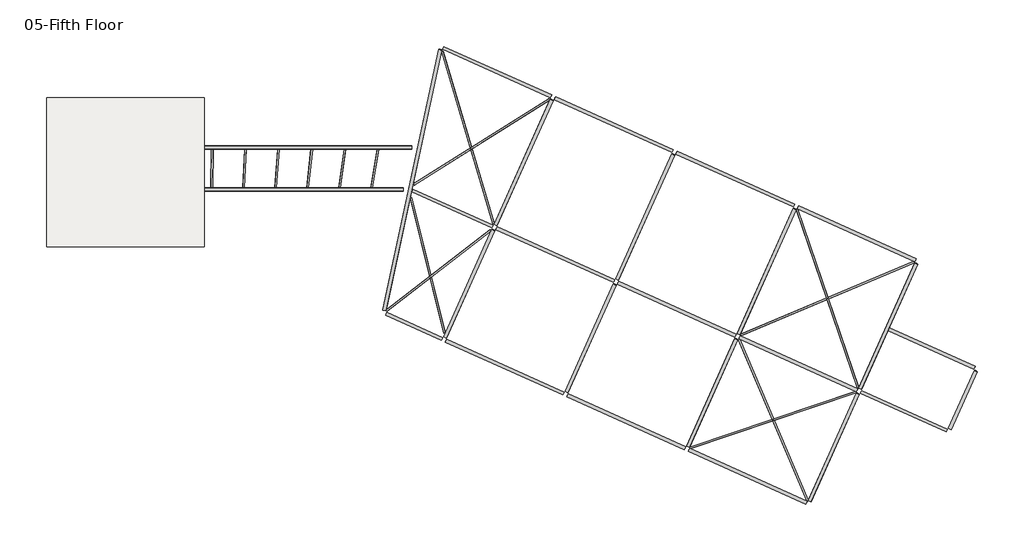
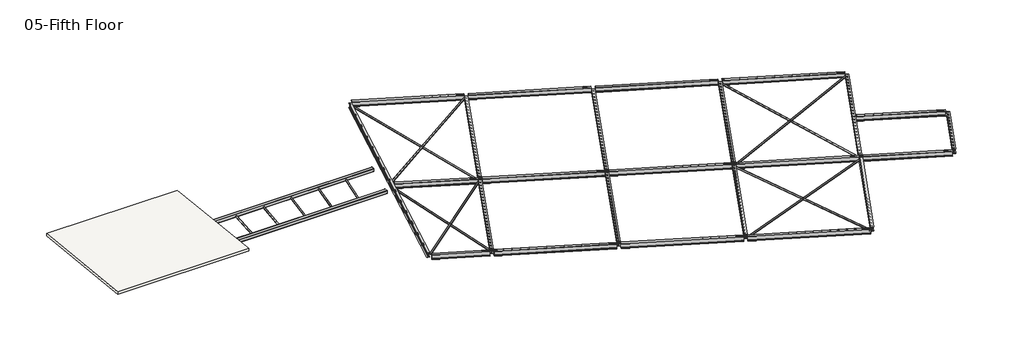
# One storey: 30 beams, 10 members, 1 slab.
"""IFC4 building model written with IfcOpenShell, lengths in millimetres."""

from ifc_helpers import new_model, si_unit, frame, origin, place, context, project, spatial, polyline, outline, extrude, transform, mapped, element, save
from components import hss_square_hss8x8x3_8_bad9dd2b, hss_square_hss8x8x3_8_38b9e08e, hss_round_structural_tubing_hss3_500x0_203_bc24e7bf, hss_round_structural_tubing_hss3_500x0_203_697ad0ac, hss_round_structural_tubing_hss3_500x0_203_f73b5b16, hss_round_structural_tubing_hss3_500x0_203_38bf33a0, w_shapes_w12x26_8135fd55, w_shapes_w12x26_22116e2b, w_shapes_w12x26_ad648731, w_shapes_w12x26_c2f357ce, w_shapes_w12x26_e6bebfd3, w_shapes_w12x26_969bac88, w_shapes_w12x26_bd244048, w_shapes_w12x26_875e1df2, w_shapes_w12x26_e9ed42f0, w_shapes_w12x26_24b1e7e8, w_shapes_w12x26_b3838ff3, w_shapes_w12x26_b11e058f, hss_round_structural_tubing_hss3_500x0_203_97989235, hss_round_structural_tubing_hss3_500x0_203_666bb957, hss_round_structural_tubing_hss3_500x0_203_1a88a494, hss_round_structural_tubing_hss3_500x0_203_b82d731a, hss_round_structural_tubing_hss3_500x0_203_5dbfd05a, hss_round_structural_tubing_hss3_500x0_203_c34e580b, hss_round_structural_tubing_hss3_500x0_203_a8bc4d31, hss_round_structural_tubing_hss3_500x0_203_a7163eb7, hss_round_structural_tubing_hss3_500x0_203_ff4150df

model = new_model("IFC4")

# Units and contexts
model_context = context("Model", 3, world=origin())
ifc_project = project(units=[si_unit("LENGTHUNIT", "METRE", prefix="MILLI")], contexts=[model_context])

# Site, building, storey
site = spatial("IfcSite", under=ifc_project)
building = spatial("IfcBuilding", under=site)
storey = spatial("IfcBuildingStorey", under=building, Name="05-Fifth Floor", Elevation=16764.0)

# Beams
placement = place(None, origin())
hss_square_hss8x8x3_8_shape = hss_square_hss8x8x3_8_bad9dd2b(model_context)
element("IfcBeam", 1, ObjectType="HSS Square : HSS8X8X3/8", at=placement, inside=storey, context=model_context, shape_type="MappedRepresentation", body=[
    mapped(hss_square_hss8x8x3_8_shape, transform((23558.6524281, -7505.7, 15951.2), x_axis=(1.0, 0.0, 0.0), y_axis=(0.0, 1.0, 0.0), z_axis=(0.0, 0.0, 1.0))),
])
hss_square_hss8x8x3_8_2_shape = hss_square_hss8x8x3_8_38b9e08e(model_context)
element("IfcBeam", 2, ObjectType="HSS Square : HSS8X8X3/8", at=placement, inside=storey, context=model_context, shape_type="MappedRepresentation", body=[
    mapped(hss_square_hss8x8x3_8_2_shape, transform((23778.5049792, -5295.9, 15951.2), x_axis=(1.0, 0.0, 0.0), y_axis=(0.0, 1.0, 0.0), z_axis=(0.0, 0.0, 1.0))),
])
hss_round_structural_tubing_hss3_500x0_203_shape = hss_round_structural_tubing_hss3_500x0_203_bc24e7bf(model_context)
element("IfcBeam", 3, ObjectType="HSS-Round Structural Tubing : HSS3.500X0.203", at=placement, inside=storey, context=model_context, shape_type="MappedRepresentation", body=[
    mapped(hss_round_structural_tubing_hss3_500x0_203_shape, transform((33164.6659576, -4982.5853928, 16454.6553402), x_axis=(0.8465666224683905, 0.5304901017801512, 0.043648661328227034), y_axis=(-0.5309961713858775, 0.84737421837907, 0.0), z_axis=(-0.036986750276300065, -0.02317727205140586, 0.9990469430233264))),
])
hss_round_structural_tubing_hss3_500x0_203_2_shape = hss_round_structural_tubing_hss3_500x0_203_697ad0ac(model_context)
element("IfcBeam", 4, ObjectType="HSS-Round Structural Tubing : HSS3.500X0.203", at=placement, inside=storey, context=model_context, shape_type="MappedRepresentation", body=[
    mapped(hss_round_structural_tubing_hss3_500x0_203_2_shape, transform((32413.3563783, -4738.4631871, 16361.2147314), x_axis=(0.2847266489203, -0.9577913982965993, -0.039577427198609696), y_axis=(0.9585424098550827, 0.28494990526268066, 0.0), z_axis=(0.011277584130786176, -0.03793664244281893, 0.9992165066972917))),
])
hss_round_structural_tubing_hss3_500x0_203_3_shape = hss_round_structural_tubing_hss3_500x0_203_f73b5b16(model_context)
element("IfcBeam", 5, ObjectType="HSS-Round Structural Tubing : HSS3.500X0.203", at=placement, inside=storey, context=model_context, shape_type="MappedRepresentation", body=[
    mapped(hss_round_structural_tubing_hss3_500x0_203_3_shape, transform((30299.6088991, -11446.5499138, 15995.132863), x_axis=(0.23971755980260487, -0.9699722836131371, -0.041100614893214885), y_axis=(0.9707925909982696, 0.23992028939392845, 0.0), z_axis=(0.009860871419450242, -0.039900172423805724, 0.9991550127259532))),
])
hss_round_structural_tubing_hss3_500x0_203_4_shape = hss_round_structural_tubing_hss3_500x0_203_38bf33a0(model_context)
element("IfcBeam", 6, ObjectType="HSS-Round Structural Tubing : HSS3.500X0.203", at=placement, inside=storey, context=model_context, shape_type="MappedRepresentation", body=[
    mapped(hss_round_structural_tubing_hss3_500x0_203_4_shape, transform((30912.7219403, -11739.1081667, 16083.2983067), x_axis=(0.7903787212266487, 0.6108659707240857, 0.046305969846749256), y_axis=(-0.6115219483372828, 0.791227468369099, 0.0), z_axis=(-0.036638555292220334, -0.028317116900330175, 0.9989273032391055))),
])
w_shapes_w12x26_shape = w_shapes_w12x26_8135fd55(model_context)
element("IfcBeam", 7, ObjectType="W Shapes : W12X26", at=placement, inside=storey, context=model_context, shape_type="MappedRepresentation", body=[
    mapped(w_shapes_w12x26_shape, transform((40094.896579, -4085.0634146, 16602.5839183), x_axis=(0.9121951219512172, -0.4097560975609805, 0.0), y_axis=(0.4097560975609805, 0.9121951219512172, 0.0), z_axis=(0.0, 0.0, 1.0))),
])
element("IfcBeam", 8, ObjectType="W Shapes : W12X26", at=placement, inside=storey, context=model_context, shape_type="MappedRepresentation", body=[
    mapped(w_shapes_w12x26_shape, transform((46489.749262, -6957.617561, 16602.5839183), x_axis=(0.912195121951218, -0.40975609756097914, 0.0), y_axis=(0.40975609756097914, 0.912195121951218, 0.0), z_axis=(0.0, 0.0, 1.0))),
])
element("IfcBeam", 9, ObjectType="W Shapes : W12X26", at=placement, inside=storey, context=model_context, shape_type="MappedRepresentation", body=[
    mapped(w_shapes_w12x26_shape, transform((52884.6019449, -9830.1717073, 16602.5839183), x_axis=(0.9121951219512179, -0.40975609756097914, 0.0), y_axis=(0.40975609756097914, 0.9121951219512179, 0.0), z_axis=(0.0, 0.0, 1.0))),
])
element("IfcBeam", 10, ObjectType="W Shapes : W12X26", at=placement, inside=storey, context=model_context, shape_type="MappedRepresentation", body=[
    mapped(w_shapes_w12x26_shape, transform((34360.1960912, -16851.5990244, 15869.1160841), x_axis=(0.9121951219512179, -0.4097560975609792, 0.0), y_axis=(0.4097560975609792, 0.9121951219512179, 0.0), z_axis=(0.0, 0.0, 1.0))),
])
element("IfcBeam", 11, ObjectType="W Shapes : W12X26", at=placement, inside=storey, context=model_context, shape_type="MappedRepresentation", body=[
    mapped(w_shapes_w12x26_shape, transform((40755.0487742, -19724.1531707, 15869.1160841), x_axis=(0.9121951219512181, -0.40975609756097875, 0.0), y_axis=(0.40975609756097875, 0.9121951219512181, 0.0), z_axis=(0.0, 0.0, 1.0))),
])
element("IfcBeam", 12, ObjectType="W Shapes : W12X26", at=placement, inside=storey, context=model_context, shape_type="MappedRepresentation", body=[
    mapped(w_shapes_w12x26_shape, transform((47149.9014571, -22596.7073171, 15869.1160841), x_axis=(0.9121951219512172, -0.40975609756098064, 0.0), y_axis=(0.40975609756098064, 0.9121951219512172, 0.0), z_axis=(0.0, 0.0, 1.0))),
])
element("IfcBeam", 13, ObjectType="W Shapes : W12X26", at=placement, inside=storey, context=model_context, shape_type="MappedRepresentation", body=[
    mapped(w_shapes_w12x26_shape, transform((37019.3902376, -10931.7263415, 16209.2268493), x_axis=(0.9121951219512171, -0.4097560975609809, 0.0), y_axis=(0.4097560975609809, 0.9121951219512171, 0.0), z_axis=(0.0, 0.0, 1.0))),
])
element("IfcBeam", 14, ObjectType="W Shapes : W12X26", at=placement, inside=storey, context=model_context, shape_type="MappedRepresentation", body=[
    mapped(w_shapes_w12x26_shape, transform((43414.2429205, -13804.2804878, 16209.2268493), x_axis=(0.9121951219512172, -0.4097560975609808, 0.0), y_axis=(0.4097560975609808, 0.9121951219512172, 0.0), z_axis=(0.0, 0.0, 1.0))),
])
element("IfcBeam", 15, ObjectType="W Shapes : W12X26", at=placement, inside=storey, context=model_context, shape_type="MappedRepresentation", body=[
    mapped(w_shapes_w12x26_shape, transform((49809.0956034, -16676.8346341, 16209.2268493), x_axis=(0.9121951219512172, -0.40975609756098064, 0.0), y_axis=(0.40975609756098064, 0.9121951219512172, 0.0), z_axis=(0.0, 0.0, 1.0))),
])
w_shapes_w12x26_2_shape = w_shapes_w12x26_22116e2b(model_context)
element("IfcBeam", 16, ObjectType="W Shapes : W12X26", at=placement, inside=storey, context=model_context, shape_type="MappedRepresentation", body=[
    mapped(w_shapes_w12x26_2_shape, transform((29502.9216102, -6989.9466027, 16235.0867039), x_axis=(-0.20925451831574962, -0.976521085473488, -0.051177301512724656), y_axis=(0.9778024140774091, -0.20952908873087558, 0.0), z_axis=(-0.010723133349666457, -0.0500412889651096, 0.9986895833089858))),
])
w_shapes_w12x26_3_shape = w_shapes_w12x26_ad648731(model_context)
element("IfcBeam", 17, ObjectType="W Shapes : W12X26", at=placement, inside=storey, context=model_context, shape_type="MappedRepresentation", body=[
    mapped(w_shapes_w12x26_3_shape, transform((41757.8924345, -8937.275022, 16406.1177237), x_axis=(-0.40919454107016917, -0.9109449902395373, -0.05233595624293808), y_axis=(0.9121951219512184, -0.4097560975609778, 0.0), z_axis=(-0.02144497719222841, -0.04774060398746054, 0.9986295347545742))),
])
element("IfcBeam", 18, ObjectType="W Shapes : W12X26", at=placement, inside=storey, context=model_context, shape_type="MappedRepresentation", body=[
    mapped(w_shapes_w12x26_3_shape, transform((54547.5978004, -14682.3833147, 16406.1177237), x_axis=(-0.4091945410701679, -0.9109449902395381, -0.052335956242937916), y_axis=(0.9121951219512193, -0.40975609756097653, 0.0), z_axis=(-0.021444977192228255, -0.047740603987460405, 0.9986295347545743))),
])
element("IfcBeam", 19, ObjectType="W Shapes : W12X26", at=placement, inside=storey, context=model_context, shape_type="MappedRepresentation", body=[
    mapped(w_shapes_w12x26_3_shape, transform((48152.7451175, -11809.8291684, 16406.1177237), x_axis=(-0.4091945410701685, -0.9109449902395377, -0.05233595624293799), y_axis=(0.9121951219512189, -0.40975609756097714, 0.0), z_axis=(-0.021444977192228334, -0.04774060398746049, 0.9986295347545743))),
])
w_shapes_w12x26_4_shape = w_shapes_w12x26_c2f357ce(model_context)
element("IfcBeam", 20, ObjectType="W Shapes : W12X26", at=placement, inside=storey, context=model_context, shape_type="MappedRepresentation", body=[
    mapped(w_shapes_w12x26_4_shape, transform((38890.5421906, -15320.5428269, 16039.3838066), x_axis=(-0.4091945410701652, -0.9109449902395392, -0.052335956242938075), y_axis=(0.9121951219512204, -0.4097560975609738, 0.0), z_axis=(-0.021444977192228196, -0.047740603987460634, 0.9986295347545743))),
])
element("IfcBeam", 21, ObjectType="W Shapes : W12X26", at=placement, inside=storey, context=model_context, shape_type="MappedRepresentation", body=[
    mapped(w_shapes_w12x26_4_shape, transform((45285.3948736, -18193.0969733, 16039.3838066), x_axis=(-0.4091945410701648, -0.9109449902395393, -0.05233595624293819), y_axis=(0.9121951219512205, -0.4097560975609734, 0.0), z_axis=(-0.02144497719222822, -0.04774060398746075, 0.9986295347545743))),
])
w_shapes_w12x26_5_shape = w_shapes_w12x26_e6bebfd3(model_context)
element("IfcBeam", 22, ObjectType="W Shapes : W12X26", at=placement, inside=storey, context=model_context, shape_type="MappedRepresentation", body=[
    mapped(w_shapes_w12x26_5_shape, transform((33949.1399021, -1324.4026613, 16602.1007534), x_axis=(0.9121951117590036, -0.40975609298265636, 0.0001494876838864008), y_axis=(0.4097560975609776, 0.9121951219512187, 0.0), z_axis=(-0.0001363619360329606, 6.125348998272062e-05, 0.9999999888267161))),
])
w_shapes_w12x26_6_shape = w_shapes_w12x26_969bac88(model_context)
element("IfcBeam", 23, ObjectType="W Shapes : W12X26", at=placement, inside=storey, context=model_context, shape_type="MappedRepresentation", body=[
    mapped(w_shapes_w12x26_6_shape, transform((55369.8370668, -19174.7078049, 16209.2268493), x_axis=(0.9121951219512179, -0.40975609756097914, 0.0), y_axis=(0.40975609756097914, 0.9121951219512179, 0.0), z_axis=(0.0, 0.0, 1.0))),
])
w_shapes_w12x26_7_shape = w_shapes_w12x26_bd244048(model_context)
element("IfcBeam", 24, ObjectType="W Shapes : W12X26", at=placement, inside=storey, context=model_context, shape_type="MappedRepresentation", body=[
    mapped(w_shapes_w12x26_7_shape, transform((58475.7335254, -18583.1764031, 16304.5793701), x_axis=(0.4091875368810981, 0.910929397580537, 0.05266110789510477), y_axis=(-0.9121951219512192, 0.40975609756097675, 0.0), z_axis=(-0.021578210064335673, -0.0480372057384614, 0.9986124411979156))),
])
w_shapes_w12x26_8_shape = w_shapes_w12x26_875e1df2(model_context)
element("IfcBeam", 25, ObjectType="W Shapes : W12X26", at=placement, inside=storey, context=model_context, shape_type="MappedRepresentation", body=[
    mapped(w_shapes_w12x26_8_shape, transform((56847.2176086, -15882.8464901, 16402.7037672), x_axis=(-0.9121944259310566, 0.40975578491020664, 0.0012353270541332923), y_axis=(-0.40975609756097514, -0.9121951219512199, 0.0), z_axis=(0.0011268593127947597, -0.0005061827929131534, 0.9999992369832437))),
])
w_shapes_w12x26_9_shape = w_shapes_w12x26_e9ed42f0(model_context)
element("IfcBeam", 26, ObjectType="W Shapes : W12X26", at=placement, inside=storey, context=model_context, shape_type="MappedRepresentation", body=[
    mapped(w_shapes_w12x26_9_shape, transform((29582.3008004, -14705.3786798, 15868.6329235), x_axis=(0.9121950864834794, -0.40975608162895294, 0.00027886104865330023), y_axis=(0.40975609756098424, 0.9121951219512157, 0.0), z_axis=(-0.00025437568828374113, 0.00011426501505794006, 0.9999999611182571))),
])
w_shapes_w12x26_10_shape = w_shapes_w12x26_24b1e7e8(model_context)
element("IfcBeam", 27, ObjectType="W Shapes : W12X26", at=placement, inside=storey, context=model_context, shape_type="MappedRepresentation", body=[
    mapped(w_shapes_w12x26_10_shape, transform((51680.2475565, -21065.6511196, 16039.3838066), x_axis=(0.4091945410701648, 0.9109449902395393, 0.05233595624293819), y_axis=(-0.9121951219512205, 0.4097560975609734, 0.0), z_axis=(-0.021444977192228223, -0.047740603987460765, 0.9986295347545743))),
])
element("IfcBeam", 28, ObjectType="W Shapes : W12X26", at=placement, inside=storey, context=model_context, shape_type="MappedRepresentation", body=[
    mapped(w_shapes_w12x26_10_shape, transform((32495.6895077, -12447.9886806, 16039.3838066), x_axis=(0.4091945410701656, 0.9109449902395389, 0.052335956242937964), y_axis=(-0.9121951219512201, 0.40975609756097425, 0.0), z_axis=(-0.021444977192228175, -0.04774060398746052, 0.9986295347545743))),
])
w_shapes_w12x26_11_shape = w_shapes_w12x26_b3838ff3(model_context)
element("IfcBeam", 29, ObjectType="W Shapes : W12X26", at=placement, inside=storey, context=model_context, shape_type="MappedRepresentation", body=[
    mapped(w_shapes_w12x26_11_shape, transform((31589.5574958, -8492.6570885, 16213.0695465), x_axis=(-0.9121939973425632, 0.4097555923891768, 0.0015702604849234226), y_axis=(-0.40975609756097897, -0.9121951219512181, 0.0), z_axis=(0.0014323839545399, -0.000643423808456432, 0.9999987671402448))),
])
w_shapes_w12x26_12_shape = w_shapes_w12x26_b11e058f(model_context)
element("IfcBeam", 30, ObjectType="W Shapes : W12X26", at=placement, inside=storey, context=model_context, shape_type="MappedRepresentation", body=[
    mapped(w_shapes_w12x26_12_shape, transform((35363.0397516, -6064.7208757, 16406.1177237), x_axis=(0.4091945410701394, 0.9109449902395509, 0.0523359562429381), y_axis=(-0.9121951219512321, 0.40975609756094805, 0.0), z_axis=(-0.021444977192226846, -0.04774060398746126, 0.9986295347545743))),
])

# Members
hss_round_structural_tubing_hss3_500x0_203_5_shape = hss_round_structural_tubing_hss3_500x0_203_97989235(model_context)
element("IfcMember", 31, ObjectType="HSS-Round Structural Tubing : HSS3.500X0.203", at=placement, inside=storey, context=model_context, shape_type="MappedRepresentation", body=[
    mapped(hss_round_structural_tubing_hss3_500x0_203_5_shape, transform((51351.7401291, -13245.4479702, 16361.7002896), x_axis=(0.9214261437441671, 0.38666408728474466, 0.03827199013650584), y_axis=(-0.38694758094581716, 0.9221017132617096, 0.0), z_axis=(-0.03529066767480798, -0.014809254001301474, 0.999267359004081))),
])
hss_round_structural_tubing_hss3_500x0_203_6_shape = hss_round_structural_tubing_hss3_500x0_203_666bb957(model_context)
element("IfcMember", 32, ObjectType="HSS-Round Structural Tubing : HSS3.500X0.203", at=placement, inside=storey, context=model_context, shape_type="MappedRepresentation", body=[
    mapped(hss_round_structural_tubing_hss3_500x0_203_6_shape, transform((51349.6216424, -13244.4963505, 16361.7002896), x_axis=(0.32295845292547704, -0.9456389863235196, -0.0382719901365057), y_axis=(0.9463323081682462, 0.32319523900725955, 0.0), z_axis=(0.012369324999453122, -0.03621802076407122, 0.9992673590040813))),
])
hss_round_structural_tubing_hss3_500x0_203_7_shape = hss_round_structural_tubing_hss3_500x0_203_1a88a494(model_context)
element("IfcMember", 33, ObjectType="HSS-Round Structural Tubing : HSS3.500X0.203", at=placement, inside=storey, context=model_context, shape_type="MappedRepresentation", body=[
    mapped(hss_round_structural_tubing_hss3_500x0_203_7_shape, transform((48484.3201067, -19628.8695648, 15994.9619503), x_axis=(0.9471589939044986, 0.31878509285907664, 0.035579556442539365), y_axis=(-0.31898706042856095, 0.9477590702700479, 0.0), z_axis=(-0.03372084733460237, -0.011349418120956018, 0.9993668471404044))),
])
element("IfcMember", 34, ObjectType="HSS-Round Structural Tubing : HSS3.500X0.203", at=placement, inside=storey, context=model_context, shape_type="MappedRepresentation", body=[
    mapped(hss_round_structural_tubing_hss3_500x0_203_7_shape, transform((48482.2027791, -19627.9184658, 15994.9619503), x_axis=(-0.3907934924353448, 0.9197904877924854, 0.03557955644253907), y_axis=(-0.9203732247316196, -0.3910410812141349, 0.0), z_axis=(0.013913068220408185, -0.03274647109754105, 0.9993668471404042))),
])
hss_round_structural_tubing_hss3_500x0_203_8_shape = hss_round_structural_tubing_hss3_500x0_203_b82d731a(model_context)
element("IfcMember", 35, ObjectType="HSS-Round Structural Tubing : HSS3.500X0.203", at=placement, inside=storey, context=model_context, shape_type="MappedRepresentation", body=[
    mapped(hss_round_structural_tubing_hss3_500x0_203_8_shape, transform((20668.767094, -6400.8, 15906.75), x_axis=(-0.045870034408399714, -0.998947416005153, 0.0), y_axis=(0.998947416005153, -0.045870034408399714, 0.0), z_axis=(0.0, 0.0, 1.0))),
])
hss_round_structural_tubing_hss3_500x0_203_9_shape = hss_round_structural_tubing_hss3_500x0_203_5dbfd05a(model_context)
element("IfcMember", 36, ObjectType="HSS-Round Structural Tubing : HSS3.500X0.203", at=placement, inside=storey, context=model_context, shape_type="MappedRepresentation", body=[
    mapped(hss_round_structural_tubing_hss3_500x0_203_9_shape, transform((22382.9451566, -6400.8, 15906.75), x_axis=(-0.07630747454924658, -0.9970843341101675, 0.0), y_axis=(0.9970843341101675, -0.07630747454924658, 0.0), z_axis=(0.0, 0.0, 1.0))),
])
hss_round_structural_tubing_hss3_500x0_203_10_shape = hss_round_structural_tubing_hss3_500x0_203_c34e580b(model_context)
element("IfcMember", 37, ObjectType="HSS-Round Structural Tubing : HSS3.500X0.203", at=placement, inside=storey, context=model_context, shape_type="MappedRepresentation", body=[
    mapped(hss_round_structural_tubing_hss3_500x0_203_10_shape, transform((24097.1232193, -6400.8, 15906.75), x_axis=(-0.10653312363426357, -0.9943091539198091, 0.0), y_axis=(0.9943091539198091, -0.10653312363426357, 0.0), z_axis=(0.0, 0.0, 1.0))),
])
hss_round_structural_tubing_hss3_500x0_203_11_shape = hss_round_structural_tubing_hss3_500x0_203_a8bc4d31(model_context)
element("IfcMember", 38, ObjectType="HSS-Round Structural Tubing : HSS3.500X0.203", at=placement, inside=storey, context=model_context, shape_type="MappedRepresentation", body=[
    mapped(hss_round_structural_tubing_hss3_500x0_203_11_shape, transform((25811.301282, -6400.8, 15906.75), x_axis=(-0.13646636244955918, -0.9906447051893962, 0.0), y_axis=(0.9906447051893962, -0.13646636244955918, 0.0), z_axis=(0.0, 0.0, 1.0000000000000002))),
])
hss_round_structural_tubing_hss3_500x0_203_12_shape = hss_round_structural_tubing_hss3_500x0_203_a7163eb7(model_context)
element("IfcMember", 39, ObjectType="HSS-Round Structural Tubing : HSS3.500X0.203", at=placement, inside=storey, context=model_context, shape_type="MappedRepresentation", body=[
    mapped(hss_round_structural_tubing_hss3_500x0_203_12_shape, transform((27525.4793446, -6400.8, 15906.75), x_axis=(-0.16603051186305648, -0.9861206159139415, 0.0), y_axis=(0.9861206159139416, -0.1660305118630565, 0.0), z_axis=(0.0, 0.0, 1.0))),
])
hss_round_structural_tubing_hss3_500x0_203_13_shape = hss_round_structural_tubing_hss3_500x0_203_ff4150df(model_context)
element("IfcMember", 40, ObjectType="HSS-Round Structural Tubing : HSS3.500X0.203", at=placement, inside=storey, context=model_context, shape_type="MappedRepresentation", body=[
    mapped(hss_round_structural_tubing_hss3_500x0_203_13_shape, transform((18954.5890313, -6400.8, 15906.75), x_axis=(0.015304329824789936, 0.9998828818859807, 0.0), y_axis=(-0.9998828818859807, 0.015304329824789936, 0.0), z_axis=(0.0, 0.0, 1.0))),
])

# Slab
element("IfcSlab", 41, ObjectType="6\" Concrete", at=placement, inside=storey, context=model_context, shape_type="SweptSolid", body=[
    extrude(outline(polyline([(-2679.7, 16610.7605382), (-10502.9, 17433.0119915), (-10502.9, 17586.2514533), (-2679.7, 16764.0), (-2679.7, 16610.7605382)])), frame((10248.9, 0.0, 0.0), z_axis=(1.0, 0.0, 0.0), x_axis=(0.0, 1.0, 0.0)), (0.0, 0.0, 1.0), 8305.8),
])

save(model, "model.ifc")
